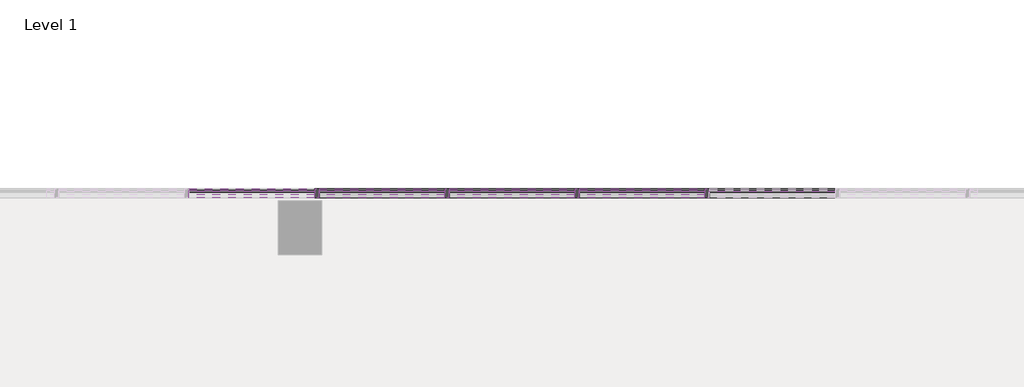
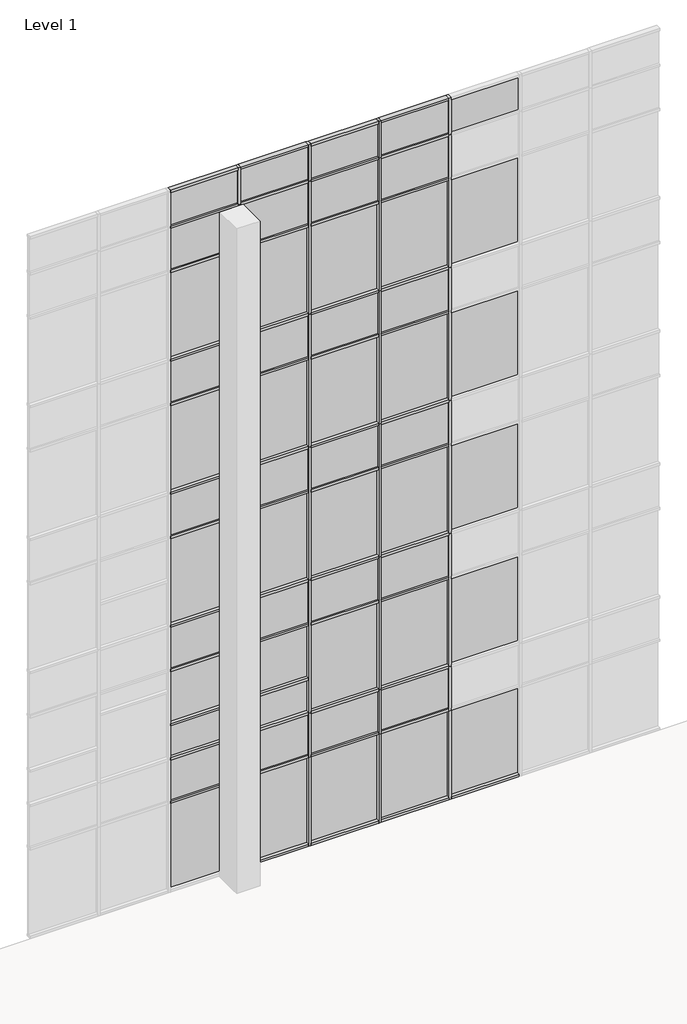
# One storey, part 12 of 23: 78 members, 52 plates.
"""IFC4 building model written with IfcOpenShell, lengths in millimetres."""

from ifc_helpers import new_model, si_unit, origin, place, context, project, spatial, transform, mapped, element, save
from components import member_2b49869a, member_f92b8aa2, member_810865a4, member_f0fea5a5, member_6d5c3e5e, member_9764dd38, system_panel_glazed_14c75400, system_panel_glazed_7d142148, system_panel_glazed_725bf07f, system_panel_solid_5dfe6f83, system_panel_solid_e25e2004, system_panel_solid_b7551183

model = new_model("IFC4")

# Units and contexts
model_context = context("Model", 3, world=origin())
ifc_project = project(units=[si_unit("LENGTHUNIT", "METRE", prefix="MILLI")], contexts=[model_context])

# Site, building, storey
site = spatial("IfcSite", under=ifc_project)
building = spatial("IfcBuilding", under=site)
storey = spatial("IfcBuildingStorey", under=building, Name="Level 1", Elevation=0.0)

# Members
placement = place(None, origin())
member_shape = member_2b49869a(model_context)
element("IfcMember", 1, ObjectType="Rectangular Mullion : 2.5\" x 5\" rectangular", at=placement, inside=storey, context=model_context, shape_type="MappedRepresentation", body=[
    mapped(member_shape, transform((-50775.4623649, 10017.7896508, 2438.4), x_axis=(1.0, 0.0, 0.0), y_axis=(0.0, -1.0, 0.0), z_axis=(0.0, 0.0, -1.0))),
])
element("IfcMember", 2, ObjectType="Rectangular Mullion : 2.5\" x 5\" rectangular", at=placement, inside=storey, context=model_context, shape_type="MappedRepresentation", body=[
    mapped(member_shape, transform((-52604.2623649, 10017.7896508, 2438.4), x_axis=(1.0, 0.0, 0.0), y_axis=(0.0, -1.0, 0.0), z_axis=(0.0, 0.0, -1.0))),
])
element("IfcMember", 3, ObjectType="Rectangular Mullion : 2.5\" x 5\" rectangular", at=placement, inside=storey, context=model_context, shape_type="MappedRepresentation", body=[
    mapped(member_shape, transform((-54433.0623649, 10017.7896508, 2438.4), x_axis=(1.0, 0.0, 0.0), y_axis=(0.0, -1.0, 0.0), z_axis=(0.0, 0.0, -1.0))),
])
element("IfcMember", 4, ObjectType="Rectangular Mullion : 2.5\" x 5\" rectangular", at=placement, inside=storey, context=model_context, shape_type="MappedRepresentation", body=[
    mapped(member_shape, transform((-56261.8623649, 10017.7896508, 2438.4), x_axis=(1.0, 0.0, 0.0), y_axis=(0.0, -1.0, 0.0), z_axis=(0.0, 0.0, -1.0))),
])
member_2_shape = member_f92b8aa2(model_context)
element("IfcMember", 5, ObjectType="Rectangular Mullion : 2.5\" x 5\" rectangular", at=placement, inside=storey, context=model_context, shape_type="MappedRepresentation", body=[
    mapped(member_2_shape, transform((-50775.4623649, 10017.7896508, 18288.0), x_axis=(1.0, 0.0, 0.0), y_axis=(0.0, -1.0, 0.0), z_axis=(0.0, 0.0, -1.0))),
])
element("IfcMember", 6, ObjectType="Rectangular Mullion : 2.5\" x 5\" rectangular", at=placement, inside=storey, context=model_context, shape_type="MappedRepresentation", body=[
    mapped(member_2_shape, transform((-52604.2623649, 10017.7896508, 18288.0), x_axis=(1.0, 0.0, 0.0), y_axis=(0.0, -1.0, 0.0), z_axis=(0.0, 0.0, -1.0))),
])
element("IfcMember", 7, ObjectType="Rectangular Mullion : 2.5\" x 5\" rectangular", at=placement, inside=storey, context=model_context, shape_type="MappedRepresentation", body=[
    mapped(member_2_shape, transform((-54433.0623649, 10017.7896508, 18288.0), x_axis=(1.0, 0.0, 0.0), y_axis=(0.0, -1.0, 0.0), z_axis=(0.0, 0.0, -1.0))),
])
element("IfcMember", 8, ObjectType="Rectangular Mullion : 2.5\" x 5\" rectangular", at=placement, inside=storey, context=model_context, shape_type="MappedRepresentation", body=[
    mapped(member_2_shape, transform((-56261.8623649, 10017.7896508, 18288.0), x_axis=(1.0, 0.0, 0.0), y_axis=(0.0, -1.0, 0.0), z_axis=(0.0, 0.0, -1.0))),
])
member_3_shape = member_810865a4(model_context)
element("IfcMember", 9, ObjectType="Rectangular Mullion : 2.5\" x 5\" rectangular", at=placement, inside=storey, context=model_context, shape_type="MappedRepresentation", body=[
    mapped(member_3_shape, transform((-50775.4623649, 10017.7896508, 14630.4), x_axis=(1.0, 0.0, 0.0), y_axis=(0.0, -1.0, 0.0), z_axis=(0.0, 0.0, -1.0))),
])
element("IfcMember", 10, ObjectType="Rectangular Mullion : 2.5\" x 5\" rectangular", at=placement, inside=storey, context=model_context, shape_type="MappedRepresentation", body=[
    mapped(member_3_shape, transform((-50775.4623649, 10017.7896508, 10972.8), x_axis=(1.0, 0.0, 0.0), y_axis=(0.0, -1.0, 0.0), z_axis=(0.0, 0.0, -1.0))),
])
element("IfcMember", 11, ObjectType="Rectangular Mullion : 2.5\" x 5\" rectangular", at=placement, inside=storey, context=model_context, shape_type="MappedRepresentation", body=[
    mapped(member_3_shape, transform((-50775.4623649, 10017.7896508, 7315.2), x_axis=(1.0, 0.0, 0.0), y_axis=(0.0, -1.0, 0.0), z_axis=(0.0, 0.0, -1.0))),
])
element("IfcMember", 12, ObjectType="Rectangular Mullion : 2.5\" x 5\" rectangular", at=placement, inside=storey, context=model_context, shape_type="MappedRepresentation", body=[
    mapped(member_3_shape, transform((-50775.4623649, 10017.7896508, 3657.6), x_axis=(1.0, 0.0, 0.0), y_axis=(0.0, -1.0, 0.0), z_axis=(0.0, 0.0, -1.0))),
])
element("IfcMember", 13, ObjectType="Rectangular Mullion : 2.5\" x 5\" rectangular", at=placement, inside=storey, context=model_context, shape_type="MappedRepresentation", body=[
    mapped(member_3_shape, transform((-52604.2623649, 10017.7896508, 14630.4), x_axis=(1.0, 0.0, 0.0), y_axis=(0.0, -1.0, 0.0), z_axis=(0.0, 0.0, -1.0))),
])
element("IfcMember", 14, ObjectType="Rectangular Mullion : 2.5\" x 5\" rectangular", at=placement, inside=storey, context=model_context, shape_type="MappedRepresentation", body=[
    mapped(member_3_shape, transform((-52604.2623649, 10017.7896508, 10972.8), x_axis=(1.0, 0.0, 0.0), y_axis=(0.0, -1.0, 0.0), z_axis=(0.0, 0.0, -1.0))),
])
element("IfcMember", 15, ObjectType="Rectangular Mullion : 2.5\" x 5\" rectangular", at=placement, inside=storey, context=model_context, shape_type="MappedRepresentation", body=[
    mapped(member_3_shape, transform((-52604.2623649, 10017.7896508, 7315.2), x_axis=(1.0, 0.0, 0.0), y_axis=(0.0, -1.0, 0.0), z_axis=(0.0, 0.0, -1.0))),
])
element("IfcMember", 16, ObjectType="Rectangular Mullion : 2.5\" x 5\" rectangular", at=placement, inside=storey, context=model_context, shape_type="MappedRepresentation", body=[
    mapped(member_3_shape, transform((-52604.2623649, 10017.7896508, 3657.6), x_axis=(1.0, 0.0, 0.0), y_axis=(0.0, -1.0, 0.0), z_axis=(0.0, 0.0, -1.0))),
])
element("IfcMember", 17, ObjectType="Rectangular Mullion : 2.5\" x 5\" rectangular", at=placement, inside=storey, context=model_context, shape_type="MappedRepresentation", body=[
    mapped(member_3_shape, transform((-54433.0623649, 10017.7896508, 14630.4), x_axis=(1.0, 0.0, 0.0), y_axis=(0.0, -1.0, 0.0), z_axis=(0.0, 0.0, -1.0))),
])
element("IfcMember", 18, ObjectType="Rectangular Mullion : 2.5\" x 5\" rectangular", at=placement, inside=storey, context=model_context, shape_type="MappedRepresentation", body=[
    mapped(member_3_shape, transform((-54433.0623649, 10017.7896508, 10972.8), x_axis=(1.0, 0.0, 0.0), y_axis=(0.0, -1.0, 0.0), z_axis=(0.0, 0.0, -1.0))),
])
element("IfcMember", 19, ObjectType="Rectangular Mullion : 2.5\" x 5\" rectangular", at=placement, inside=storey, context=model_context, shape_type="MappedRepresentation", body=[
    mapped(member_3_shape, transform((-54433.0623649, 10017.7896508, 7315.2), x_axis=(1.0, 0.0, 0.0), y_axis=(0.0, -1.0, 0.0), z_axis=(0.0, 0.0, -1.0))),
])
element("IfcMember", 20, ObjectType="Rectangular Mullion : 2.5\" x 5\" rectangular", at=placement, inside=storey, context=model_context, shape_type="MappedRepresentation", body=[
    mapped(member_3_shape, transform((-54433.0623649, 10017.7896508, 3657.6), x_axis=(1.0, 0.0, 0.0), y_axis=(0.0, -1.0, 0.0), z_axis=(0.0, 0.0, -1.0))),
])
element("IfcMember", 21, ObjectType="Rectangular Mullion : 2.5\" x 5\" rectangular", at=placement, inside=storey, context=model_context, shape_type="MappedRepresentation", body=[
    mapped(member_3_shape, transform((-56261.8623649, 10017.7896508, 14630.4), x_axis=(1.0, 0.0, 0.0), y_axis=(0.0, -1.0, 0.0), z_axis=(0.0, 0.0, -1.0))),
])
element("IfcMember", 22, ObjectType="Rectangular Mullion : 2.5\" x 5\" rectangular", at=placement, inside=storey, context=model_context, shape_type="MappedRepresentation", body=[
    mapped(member_3_shape, transform((-56261.8623649, 10017.7896508, 10972.8), x_axis=(1.0, 0.0, 0.0), y_axis=(0.0, -1.0, 0.0), z_axis=(0.0, 0.0, -1.0))),
])
element("IfcMember", 23, ObjectType="Rectangular Mullion : 2.5\" x 5\" rectangular", at=placement, inside=storey, context=model_context, shape_type="MappedRepresentation", body=[
    mapped(member_3_shape, transform((-56261.8623649, 10017.7896508, 7315.2), x_axis=(1.0, 0.0, 0.0), y_axis=(0.0, -1.0, 0.0), z_axis=(0.0, 0.0, -1.0))),
])
element("IfcMember", 24, ObjectType="Rectangular Mullion : 2.5\" x 5\" rectangular", at=placement, inside=storey, context=model_context, shape_type="MappedRepresentation", body=[
    mapped(member_3_shape, transform((-56261.8623649, 10017.7896508, 3657.6), x_axis=(1.0, 0.0, 0.0), y_axis=(0.0, -1.0, 0.0), z_axis=(0.0, 0.0, -1.0))),
])
member_4_shape = member_f0fea5a5(model_context)
element("IfcMember", 25, ObjectType="Rectangular Mullion : 2.5\" x 5\" rectangular", at=placement, inside=storey, context=model_context, shape_type="MappedRepresentation", body=[
    mapped(member_4_shape, transform((-50775.4623649, 10017.7896508, 0.0), x_axis=(1.0, 0.0, 0.0), y_axis=(0.0, -1.0, 0.0), z_axis=(0.0, 0.0, -1.0))),
])
element("IfcMember", 26, ObjectType="Rectangular Mullion : 2.5\" x 5\" rectangular", at=placement, inside=storey, context=model_context, shape_type="MappedRepresentation", body=[
    mapped(member_4_shape, transform((-56261.8623649, 10017.7896508, 0.0), x_axis=(1.0, 0.0, 0.0), y_axis=(0.0, -1.0, 0.0), z_axis=(0.0, 0.0, -1.0))),
])
element("IfcMember", 27, ObjectType="Rectangular Mullion : 2.5\" x 5\" rectangular", at=placement, inside=storey, context=model_context, shape_type="MappedRepresentation", body=[
    mapped(member_4_shape, transform((-52604.2623649, 10017.7896508, 0.0), x_axis=(1.0, 0.0, 0.0), y_axis=(0.0, -1.0, 0.0), z_axis=(0.0, 0.0, -1.0))),
])
element("IfcMember", 28, ObjectType="Rectangular Mullion : 2.5\" x 5\" rectangular", at=placement, inside=storey, context=model_context, shape_type="MappedRepresentation", body=[
    mapped(member_4_shape, transform((-54433.0623649, 10017.7896508, 0.0), x_axis=(1.0, 0.0, 0.0), y_axis=(0.0, -1.0, 0.0), z_axis=(0.0, 0.0, -1.0))),
])
member_5_shape = member_6d5c3e5e(model_context)
element("IfcMember", 29, ObjectType="Rectangular Mullion : 2.5\" x 5\" rectangular", at=placement, inside=storey, context=model_context, shape_type="MappedRepresentation", body=[
    mapped(member_5_shape, transform((-56293.6123649, 10017.7896508, 19304.0), x_axis=(0.0, 0.0, 1.0), y_axis=(0.0, -1.0, 0.0), z_axis=(1.0, 0.0, 0.0))),
])
element("IfcMember", 30, ObjectType="Rectangular Mullion : 2.5\" x 5\" rectangular", at=placement, inside=storey, context=model_context, shape_type="MappedRepresentation", body=[
    mapped(member_5_shape, transform((-50807.2123649, 10017.7896508, 19304.0), x_axis=(0.0, 0.0, 1.0), y_axis=(0.0, -1.0, 0.0), z_axis=(1.0, 0.0, 0.0))),
])
element("IfcMember", 31, ObjectType="Rectangular Mullion : 2.5\" x 5\" rectangular", at=placement, inside=storey, context=model_context, shape_type="MappedRepresentation", body=[
    mapped(member_5_shape, transform((-52636.0123649, 10017.7896508, 19304.0), x_axis=(0.0, 0.0, 1.0), y_axis=(0.0, -1.0, 0.0), z_axis=(1.0, 0.0, 0.0))),
])
element("IfcMember", 32, ObjectType="Rectangular Mullion : 2.5\" x 5\" rectangular", at=placement, inside=storey, context=model_context, shape_type="MappedRepresentation", body=[
    mapped(member_5_shape, transform((-54464.8123649, 10017.7896508, 19304.0), x_axis=(0.0, 0.0, 1.0), y_axis=(0.0, -1.0, 0.0), z_axis=(1.0, 0.0, 0.0))),
])
member_6_shape = member_9764dd38(model_context)
element("IfcMember", 33, ObjectType="Rectangular Mullion : 2.5\" x 5\" rectangular", at=placement, inside=storey, context=model_context, shape_type="MappedRepresentation", body=[
    mapped(member_6_shape, transform((-50807.2123649, 10017.7896508, 17068.8), x_axis=(0.0, 0.0, 1.0), y_axis=(0.0, -1.0, 0.0), z_axis=(1.0, 0.0, 0.0))),
])
element("IfcMember", 34, ObjectType="Rectangular Mullion : 2.5\" x 5\" rectangular", at=placement, inside=storey, context=model_context, shape_type="MappedRepresentation", body=[
    mapped(member_6_shape, transform((-52636.0123649, 10017.7896508, 17068.8), x_axis=(0.0, 0.0, 1.0), y_axis=(0.0, -1.0, 0.0), z_axis=(1.0, 0.0, 0.0))),
])
element("IfcMember", 35, ObjectType="Rectangular Mullion : 2.5\" x 5\" rectangular", at=placement, inside=storey, context=model_context, shape_type="MappedRepresentation", body=[
    mapped(member_6_shape, transform((-54464.8123649, 10017.7896508, 17068.8), x_axis=(0.0, 0.0, 1.0), y_axis=(0.0, -1.0, 0.0), z_axis=(1.0, 0.0, 0.0))),
])
element("IfcMember", 36, ObjectType="Rectangular Mullion : 2.5\" x 5\" rectangular", at=placement, inside=storey, context=model_context, shape_type="MappedRepresentation", body=[
    mapped(member_6_shape, transform((-56293.6123649, 10017.7896508, 17068.8), x_axis=(0.0, 0.0, 1.0), y_axis=(0.0, -1.0, 0.0), z_axis=(1.0, 0.0, 0.0))),
])
element("IfcMember", 37, ObjectType="Rectangular Mullion : 2.5\" x 5\" rectangular", at=placement, inside=storey, context=model_context, shape_type="MappedRepresentation", body=[
    mapped(member_6_shape, transform((-50807.2123649, 10017.7896508, 13411.2), x_axis=(0.0, 0.0, 1.0), y_axis=(0.0, -1.0, 0.0), z_axis=(1.0, 0.0, 0.0))),
])
element("IfcMember", 38, ObjectType="Rectangular Mullion : 2.5\" x 5\" rectangular", at=placement, inside=storey, context=model_context, shape_type="MappedRepresentation", body=[
    mapped(member_6_shape, transform((-52636.0123649, 10017.7896508, 13411.2), x_axis=(0.0, 0.0, 1.0), y_axis=(0.0, -1.0, 0.0), z_axis=(1.0, 0.0, 0.0))),
])
element("IfcMember", 39, ObjectType="Rectangular Mullion : 2.5\" x 5\" rectangular", at=placement, inside=storey, context=model_context, shape_type="MappedRepresentation", body=[
    mapped(member_6_shape, transform((-54464.8123649, 10017.7896508, 13411.2), x_axis=(0.0, 0.0, 1.0), y_axis=(0.0, -1.0, 0.0), z_axis=(1.0, 0.0, 0.0))),
])
element("IfcMember", 40, ObjectType="Rectangular Mullion : 2.5\" x 5\" rectangular", at=placement, inside=storey, context=model_context, shape_type="MappedRepresentation", body=[
    mapped(member_6_shape, transform((-56293.6123649, 10017.7896508, 13411.2), x_axis=(0.0, 0.0, 1.0), y_axis=(0.0, -1.0, 0.0), z_axis=(1.0, 0.0, 0.0))),
])
element("IfcMember", 41, ObjectType="Rectangular Mullion : 2.5\" x 5\" rectangular", at=placement, inside=storey, context=model_context, shape_type="MappedRepresentation", body=[
    mapped(member_6_shape, transform((-50807.2123649, 10017.7896508, 9753.6), x_axis=(0.0, 0.0, 1.0), y_axis=(0.0, -1.0, 0.0), z_axis=(1.0, 0.0, 0.0))),
])
element("IfcMember", 42, ObjectType="Rectangular Mullion : 2.5\" x 5\" rectangular", at=placement, inside=storey, context=model_context, shape_type="MappedRepresentation", body=[
    mapped(member_6_shape, transform((-52636.0123649, 10017.7896508, 9753.6), x_axis=(0.0, 0.0, 1.0), y_axis=(0.0, -1.0, 0.0), z_axis=(1.0, 0.0, 0.0))),
])
element("IfcMember", 43, ObjectType="Rectangular Mullion : 2.5\" x 5\" rectangular", at=placement, inside=storey, context=model_context, shape_type="MappedRepresentation", body=[
    mapped(member_6_shape, transform((-54464.8123649, 10017.7896508, 9753.6), x_axis=(0.0, 0.0, 1.0), y_axis=(0.0, -1.0, 0.0), z_axis=(1.0, 0.0, 0.0))),
])
element("IfcMember", 44, ObjectType="Rectangular Mullion : 2.5\" x 5\" rectangular", at=placement, inside=storey, context=model_context, shape_type="MappedRepresentation", body=[
    mapped(member_6_shape, transform((-56293.6123649, 10017.7896508, 9753.6), x_axis=(0.0, 0.0, 1.0), y_axis=(0.0, -1.0, 0.0), z_axis=(1.0, 0.0, 0.0))),
])
element("IfcMember", 45, ObjectType="Rectangular Mullion : 2.5\" x 5\" rectangular", at=placement, inside=storey, context=model_context, shape_type="MappedRepresentation", body=[
    mapped(member_6_shape, transform((-50807.2123649, 10017.7896508, 6096.0), x_axis=(0.0, 0.0, 1.0), y_axis=(0.0, -1.0, 0.0), z_axis=(1.0, 0.0, 0.0))),
])
element("IfcMember", 46, ObjectType="Rectangular Mullion : 2.5\" x 5\" rectangular", at=placement, inside=storey, context=model_context, shape_type="MappedRepresentation", body=[
    mapped(member_6_shape, transform((-52636.0123649, 10017.7896508, 6096.0), x_axis=(0.0, 0.0, 1.0), y_axis=(0.0, -1.0, 0.0), z_axis=(1.0, 0.0, 0.0))),
])
element("IfcMember", 47, ObjectType="Rectangular Mullion : 2.5\" x 5\" rectangular", at=placement, inside=storey, context=model_context, shape_type="MappedRepresentation", body=[
    mapped(member_6_shape, transform((-54464.8123649, 10017.7896508, 6096.0), x_axis=(0.0, 0.0, 1.0), y_axis=(0.0, -1.0, 0.0), z_axis=(1.0, 0.0, 0.0))),
])
element("IfcMember", 48, ObjectType="Rectangular Mullion : 2.5\" x 5\" rectangular", at=placement, inside=storey, context=model_context, shape_type="MappedRepresentation", body=[
    mapped(member_6_shape, transform((-56293.6123649, 10017.7896508, 6096.0), x_axis=(0.0, 0.0, 1.0), y_axis=(0.0, -1.0, 0.0), z_axis=(1.0, 0.0, 0.0))),
])
element("IfcMember", 49, ObjectType="Rectangular Mullion : 2.5\" x 5\" rectangular", at=placement, inside=storey, context=model_context, shape_type="MappedRepresentation", body=[
    mapped(member_6_shape, transform((-50807.2123649, 10017.7896508, 2470.15), x_axis=(0.0, 0.0, 1.0), y_axis=(0.0, -1.0, 0.0), z_axis=(1.0, 0.0, 0.0))),
])
element("IfcMember", 50, ObjectType="Rectangular Mullion : 2.5\" x 5\" rectangular", at=placement, inside=storey, context=model_context, shape_type="MappedRepresentation", body=[
    mapped(member_6_shape, transform((-52636.0123649, 10017.7896508, 2470.15), x_axis=(0.0, 0.0, 1.0), y_axis=(0.0, -1.0, 0.0), z_axis=(1.0, 0.0, 0.0))),
])
element("IfcMember", 51, ObjectType="Rectangular Mullion : 2.5\" x 5\" rectangular", at=placement, inside=storey, context=model_context, shape_type="MappedRepresentation", body=[
    mapped(member_6_shape, transform((-54464.8123649, 10017.7896508, 2470.15), x_axis=(0.0, 0.0, 1.0), y_axis=(0.0, -1.0, 0.0), z_axis=(1.0, 0.0, 0.0))),
])
element("IfcMember", 52, ObjectType="Rectangular Mullion : 2.5\" x 5\" rectangular", at=placement, inside=storey, context=model_context, shape_type="MappedRepresentation", body=[
    mapped(member_6_shape, transform((-56293.6123649, 10017.7896508, 2470.15), x_axis=(0.0, 0.0, 1.0), y_axis=(0.0, -1.0, 0.0), z_axis=(1.0, 0.0, 0.0))),
])
element("IfcMember", 53, ObjectType="Rectangular Mullion : 2.5\" x 5\" rectangular", at=placement, inside=storey, context=model_context, shape_type="MappedRepresentation", body=[
    mapped(member_6_shape, transform((-56293.6123649, 10017.7896508, 4603.75), x_axis=(0.0, 0.0, 1.0), y_axis=(0.0, -1.0, 0.0), z_axis=(1.0, 0.0, 0.0))),
])
element("IfcMember", 54, ObjectType="Rectangular Mullion : 2.5\" x 5\" rectangular", at=placement, inside=storey, context=model_context, shape_type="MappedRepresentation", body=[
    mapped(member_6_shape, transform((-54464.8123649, 10017.7896508, 4603.75), x_axis=(0.0, 0.0, 1.0), y_axis=(0.0, -1.0, 0.0), z_axis=(1.0, 0.0, 0.0))),
])
element("IfcMember", 55, ObjectType="Rectangular Mullion : 2.5\" x 5\" rectangular", at=placement, inside=storey, context=model_context, shape_type="MappedRepresentation", body=[
    mapped(member_5_shape, transform((-50743.7123649, 10017.7896508, 0.0), x_axis=(0.0, 0.0, -1.0), y_axis=(0.0, -1.0, 0.0), z_axis=(-1.0, 0.0, 0.0))),
])
element("IfcMember", 56, ObjectType="Rectangular Mullion : 2.5\" x 5\" rectangular", at=placement, inside=storey, context=model_context, shape_type="MappedRepresentation", body=[
    mapped(member_5_shape, transform((-52572.5123649, 10017.7896508, 0.0), x_axis=(0.0, 0.0, -1.0), y_axis=(0.0, -1.0, 0.0), z_axis=(-1.0, 0.0, 0.0))),
])
element("IfcMember", 57, ObjectType="Rectangular Mullion : 2.5\" x 5\" rectangular", at=placement, inside=storey, context=model_context, shape_type="MappedRepresentation", body=[
    mapped(member_5_shape, transform((-54401.3123649, 10017.7896508, 0.0), x_axis=(0.0, 0.0, -1.0), y_axis=(0.0, -1.0, 0.0), z_axis=(-1.0, 0.0, 0.0))),
])
element("IfcMember", 58, ObjectType="Rectangular Mullion : 2.5\" x 5\" rectangular", at=placement, inside=storey, context=model_context, shape_type="MappedRepresentation", body=[
    mapped(member_5_shape, transform((-56230.1123649, 10017.7896508, 0.0), x_axis=(0.0, 0.0, -1.0), y_axis=(0.0, -1.0, 0.0), z_axis=(-1.0, 0.0, 0.0))),
])
element("IfcMember", 59, ObjectType="Rectangular Mullion : 2.5\" x 5\" rectangular", at=placement, inside=storey, context=model_context, shape_type="MappedRepresentation", body=[
    mapped(member_6_shape, transform((-50807.2123649, 10017.7896508, 10972.8), x_axis=(0.0, 0.0, 1.0), y_axis=(0.0, -1.0, 0.0), z_axis=(1.0, 0.0, 0.0))),
])
element("IfcMember", 60, ObjectType="Rectangular Mullion : 2.5\" x 5\" rectangular", at=placement, inside=storey, context=model_context, shape_type="MappedRepresentation", body=[
    mapped(member_6_shape, transform((-52636.0123649, 10017.7896508, 10972.8), x_axis=(0.0, 0.0, 1.0), y_axis=(0.0, -1.0, 0.0), z_axis=(1.0, 0.0, 0.0))),
])
element("IfcMember", 61, ObjectType="Rectangular Mullion : 2.5\" x 5\" rectangular", at=placement, inside=storey, context=model_context, shape_type="MappedRepresentation", body=[
    mapped(member_6_shape, transform((-54464.8123649, 10017.7896508, 10972.8), x_axis=(0.0, 0.0, 1.0), y_axis=(0.0, -1.0, 0.0), z_axis=(1.0, 0.0, 0.0))),
])
element("IfcMember", 62, ObjectType="Rectangular Mullion : 2.5\" x 5\" rectangular", at=placement, inside=storey, context=model_context, shape_type="MappedRepresentation", body=[
    mapped(member_6_shape, transform((-56293.6123649, 10017.7896508, 10972.8), x_axis=(0.0, 0.0, 1.0), y_axis=(0.0, -1.0, 0.0), z_axis=(1.0, 0.0, 0.0))),
])
element("IfcMember", 63, ObjectType="Rectangular Mullion : 2.5\" x 5\" rectangular", at=placement, inside=storey, context=model_context, shape_type="MappedRepresentation", body=[
    mapped(member_6_shape, transform((-50807.2123649, 10017.7896508, 7315.2), x_axis=(0.0, 0.0, 1.0), y_axis=(0.0, -1.0, 0.0), z_axis=(1.0, 0.0, 0.0))),
])
element("IfcMember", 64, ObjectType="Rectangular Mullion : 2.5\" x 5\" rectangular", at=placement, inside=storey, context=model_context, shape_type="MappedRepresentation", body=[
    mapped(member_6_shape, transform((-52636.0123649, 10017.7896508, 7315.2), x_axis=(0.0, 0.0, 1.0), y_axis=(0.0, -1.0, 0.0), z_axis=(1.0, 0.0, 0.0))),
])
element("IfcMember", 65, ObjectType="Rectangular Mullion : 2.5\" x 5\" rectangular", at=placement, inside=storey, context=model_context, shape_type="MappedRepresentation", body=[
    mapped(member_6_shape, transform((-54464.8123649, 10017.7896508, 7315.2), x_axis=(0.0, 0.0, 1.0), y_axis=(0.0, -1.0, 0.0), z_axis=(1.0, 0.0, 0.0))),
])
element("IfcMember", 66, ObjectType="Rectangular Mullion : 2.5\" x 5\" rectangular", at=placement, inside=storey, context=model_context, shape_type="MappedRepresentation", body=[
    mapped(member_6_shape, transform((-56293.6123649, 10017.7896508, 7315.2), x_axis=(0.0, 0.0, 1.0), y_axis=(0.0, -1.0, 0.0), z_axis=(1.0, 0.0, 0.0))),
])
element("IfcMember", 67, ObjectType="Rectangular Mullion : 2.5\" x 5\" rectangular", at=placement, inside=storey, context=model_context, shape_type="MappedRepresentation", body=[
    mapped(member_6_shape, transform((-50807.2123649, 10017.7896508, 18288.0), x_axis=(0.0, 0.0, 1.0), y_axis=(0.0, -1.0, 0.0), z_axis=(1.0, 0.0, 0.0))),
])
element("IfcMember", 68, ObjectType="Rectangular Mullion : 2.5\" x 5\" rectangular", at=placement, inside=storey, context=model_context, shape_type="MappedRepresentation", body=[
    mapped(member_6_shape, transform((-52636.0123649, 10017.7896508, 18288.0), x_axis=(0.0, 0.0, 1.0), y_axis=(0.0, -1.0, 0.0), z_axis=(1.0, 0.0, 0.0))),
])
element("IfcMember", 69, ObjectType="Rectangular Mullion : 2.5\" x 5\" rectangular", at=placement, inside=storey, context=model_context, shape_type="MappedRepresentation", body=[
    mapped(member_6_shape, transform((-54464.8123649, 10017.7896508, 18288.0), x_axis=(0.0, 0.0, 1.0), y_axis=(0.0, -1.0, 0.0), z_axis=(1.0, 0.0, 0.0))),
])
element("IfcMember", 70, ObjectType="Rectangular Mullion : 2.5\" x 5\" rectangular", at=placement, inside=storey, context=model_context, shape_type="MappedRepresentation", body=[
    mapped(member_6_shape, transform((-56293.6123649, 10017.7896508, 18288.0), x_axis=(0.0, 0.0, 1.0), y_axis=(0.0, -1.0, 0.0), z_axis=(1.0, 0.0, 0.0))),
])
element("IfcMember", 71, ObjectType="Rectangular Mullion : 2.5\" x 5\" rectangular", at=placement, inside=storey, context=model_context, shape_type="MappedRepresentation", body=[
    mapped(member_6_shape, transform((-50807.2123649, 10017.7896508, 14630.4), x_axis=(0.0, 0.0, 1.0), y_axis=(0.0, -1.0, 0.0), z_axis=(1.0, 0.0, 0.0))),
])
element("IfcMember", 72, ObjectType="Rectangular Mullion : 2.5\" x 5\" rectangular", at=placement, inside=storey, context=model_context, shape_type="MappedRepresentation", body=[
    mapped(member_6_shape, transform((-52636.0123649, 10017.7896508, 14630.4), x_axis=(0.0, 0.0, 1.0), y_axis=(0.0, -1.0, 0.0), z_axis=(1.0, 0.0, 0.0))),
])
element("IfcMember", 73, ObjectType="Rectangular Mullion : 2.5\" x 5\" rectangular", at=placement, inside=storey, context=model_context, shape_type="MappedRepresentation", body=[
    mapped(member_6_shape, transform((-54464.8123649, 10017.7896508, 14630.4), x_axis=(0.0, 0.0, 1.0), y_axis=(0.0, -1.0, 0.0), z_axis=(1.0, 0.0, 0.0))),
])
element("IfcMember", 74, ObjectType="Rectangular Mullion : 2.5\" x 5\" rectangular", at=placement, inside=storey, context=model_context, shape_type="MappedRepresentation", body=[
    mapped(member_6_shape, transform((-56293.6123649, 10017.7896508, 14630.4), x_axis=(0.0, 0.0, 1.0), y_axis=(0.0, -1.0, 0.0), z_axis=(1.0, 0.0, 0.0))),
])
element("IfcMember", 75, ObjectType="Rectangular Mullion : 2.5\" x 5\" rectangular", at=placement, inside=storey, context=model_context, shape_type="MappedRepresentation", body=[
    mapped(member_6_shape, transform((-56293.6123649, 10017.7896508, 3657.6), x_axis=(0.0, 0.0, 1.0), y_axis=(0.0, -1.0, 0.0), z_axis=(1.0, 0.0, 0.0))),
])
element("IfcMember", 76, ObjectType="Rectangular Mullion : 2.5\" x 5\" rectangular", at=placement, inside=storey, context=model_context, shape_type="MappedRepresentation", body=[
    mapped(member_6_shape, transform((-52636.0123649, 10017.7896508, 3657.6), x_axis=(0.0, 0.0, 1.0), y_axis=(0.0, -1.0, 0.0), z_axis=(1.0, 0.0, 0.0))),
])
element("IfcMember", 77, ObjectType="Rectangular Mullion : 2.5\" x 5\" rectangular", at=placement, inside=storey, context=model_context, shape_type="MappedRepresentation", body=[
    mapped(member_6_shape, transform((-50807.2123649, 10017.7896508, 3657.6), x_axis=(0.0, 0.0, 1.0), y_axis=(0.0, -1.0, 0.0), z_axis=(1.0, 0.0, 0.0))),
])
element("IfcMember", 78, ObjectType="Rectangular Mullion : 2.5\" x 5\" rectangular", at=placement, inside=storey, context=model_context, shape_type="MappedRepresentation", body=[
    mapped(member_6_shape, transform((-54464.8123649, 10017.7896508, 3657.6), x_axis=(0.0, 0.0, 1.0), y_axis=(0.0, -1.0, 0.0), z_axis=(1.0, 0.0, 0.0))),
])

# Plates
system_panel_glazed_shape = system_panel_glazed_14c75400(model_context)
element("IfcPlate", 79, ObjectType="System Panel : Glazed", at=placement, inside=storey, context=model_context, shape_type="MappedRepresentation", body=[
    mapped(system_panel_glazed_shape, transform((-49861.0623649, 10017.7896508, 14662.15), x_axis=(1.0, 0.0, 0.0), y_axis=(0.0, 1.0, 0.0), z_axis=(0.0, 0.0, 1.0))),
])
element("IfcPlate", 80, ObjectType="System Panel : Glazed", at=placement, inside=storey, context=model_context, shape_type="MappedRepresentation", body=[
    mapped(system_panel_glazed_shape, transform((-51689.8623649, 10017.7896508, 14662.15), x_axis=(1.0, 0.0, 0.0), y_axis=(0.0, 1.0, 0.0), z_axis=(0.0, 0.0, 1.0))),
])
element("IfcPlate", 81, ObjectType="System Panel : Glazed", at=placement, inside=storey, context=model_context, shape_type="MappedRepresentation", body=[
    mapped(system_panel_glazed_shape, transform((-53518.6623649, 10017.7896508, 14662.15), x_axis=(1.0, 0.0, 0.0), y_axis=(0.0, 1.0, 0.0), z_axis=(0.0, 0.0, 1.0))),
])
element("IfcPlate", 82, ObjectType="System Panel : Glazed", at=placement, inside=storey, context=model_context, shape_type="MappedRepresentation", body=[
    mapped(system_panel_glazed_shape, transform((-55347.4623649, 10017.7896508, 14662.15), x_axis=(1.0, 0.0, 0.0), y_axis=(0.0, 1.0, 0.0), z_axis=(0.0, 0.0, 1.0))),
])
element("IfcPlate", 83, ObjectType="System Panel : Glazed", at=placement, inside=storey, context=model_context, shape_type="MappedRepresentation", body=[
    mapped(system_panel_glazed_shape, transform((-57176.2623649, 10017.7896508, 14662.15), x_axis=(1.0, 0.0, 0.0), y_axis=(0.0, 1.0, 0.0), z_axis=(0.0, 0.0, 1.0))),
])
element("IfcPlate", 84, ObjectType="System Panel : Glazed", at=placement, inside=storey, context=model_context, shape_type="MappedRepresentation", body=[
    mapped(system_panel_glazed_shape, transform((-49861.0623649, 10017.7896508, 11004.55), x_axis=(1.0, 0.0, 0.0), y_axis=(0.0, 1.0, 0.0), z_axis=(0.0, 0.0, 1.0))),
])
element("IfcPlate", 85, ObjectType="System Panel : Glazed", at=placement, inside=storey, context=model_context, shape_type="MappedRepresentation", body=[
    mapped(system_panel_glazed_shape, transform((-51689.8623649, 10017.7896508, 11004.55), x_axis=(1.0, 0.0, 0.0), y_axis=(0.0, 1.0, 0.0), z_axis=(0.0, 0.0, 1.0))),
])
element("IfcPlate", 86, ObjectType="System Panel : Glazed", at=placement, inside=storey, context=model_context, shape_type="MappedRepresentation", body=[
    mapped(system_panel_glazed_shape, transform((-53518.6623649, 10017.7896508, 11004.55), x_axis=(1.0, 0.0, 0.0), y_axis=(0.0, 1.0, 0.0), z_axis=(0.0, 0.0, 1.0))),
])
element("IfcPlate", 87, ObjectType="System Panel : Glazed", at=placement, inside=storey, context=model_context, shape_type="MappedRepresentation", body=[
    mapped(system_panel_glazed_shape, transform((-55347.4623649, 10017.7896508, 11004.55), x_axis=(1.0, 0.0, 0.0), y_axis=(0.0, 1.0, 0.0), z_axis=(0.0, 0.0, 1.0))),
])
element("IfcPlate", 88, ObjectType="System Panel : Glazed", at=placement, inside=storey, context=model_context, shape_type="MappedRepresentation", body=[
    mapped(system_panel_glazed_shape, transform((-57176.2623649, 10017.7896508, 11004.55), x_axis=(1.0, 0.0, 0.0), y_axis=(0.0, 1.0, 0.0), z_axis=(0.0, 0.0, 1.0))),
])
element("IfcPlate", 89, ObjectType="System Panel : Glazed", at=placement, inside=storey, context=model_context, shape_type="MappedRepresentation", body=[
    mapped(system_panel_glazed_shape, transform((-49861.0623649, 10017.7896508, 7346.95), x_axis=(1.0, 0.0, 0.0), y_axis=(0.0, 1.0, 0.0), z_axis=(0.0, 0.0, 1.0))),
])
element("IfcPlate", 90, ObjectType="System Panel : Glazed", at=placement, inside=storey, context=model_context, shape_type="MappedRepresentation", body=[
    mapped(system_panel_glazed_shape, transform((-51689.8623649, 10017.7896508, 7346.95), x_axis=(1.0, 0.0, 0.0), y_axis=(0.0, 1.0, 0.0), z_axis=(0.0, 0.0, 1.0))),
])
element("IfcPlate", 91, ObjectType="System Panel : Glazed", at=placement, inside=storey, context=model_context, shape_type="MappedRepresentation", body=[
    mapped(system_panel_glazed_shape, transform((-53518.6623649, 10017.7896508, 7346.95), x_axis=(1.0, 0.0, 0.0), y_axis=(0.0, 1.0, 0.0), z_axis=(0.0, 0.0, 1.0))),
])
element("IfcPlate", 92, ObjectType="System Panel : Glazed", at=placement, inside=storey, context=model_context, shape_type="MappedRepresentation", body=[
    mapped(system_panel_glazed_shape, transform((-55347.4623649, 10017.7896508, 7346.95), x_axis=(1.0, 0.0, 0.0), y_axis=(0.0, 1.0, 0.0), z_axis=(0.0, 0.0, 1.0))),
])
element("IfcPlate", 93, ObjectType="System Panel : Glazed", at=placement, inside=storey, context=model_context, shape_type="MappedRepresentation", body=[
    mapped(system_panel_glazed_shape, transform((-57176.2623649, 10017.7896508, 7346.95), x_axis=(1.0, 0.0, 0.0), y_axis=(0.0, 1.0, 0.0), z_axis=(0.0, 0.0, 1.0))),
])
element("IfcPlate", 94, ObjectType="System Panel : Glazed", at=placement, inside=storey, context=model_context, shape_type="MappedRepresentation", body=[
    mapped(system_panel_glazed_shape, transform((-49861.0623649, 10017.7896508, 3689.35), x_axis=(1.0, 0.0, 0.0), y_axis=(0.0, 1.0, 0.0), z_axis=(0.0, 0.0, 1.0))),
])
element("IfcPlate", 95, ObjectType="System Panel : Glazed", at=placement, inside=storey, context=model_context, shape_type="MappedRepresentation", body=[
    mapped(system_panel_glazed_shape, transform((-51689.8623649, 10017.7896508, 3689.35), x_axis=(1.0, 0.0, 0.0), y_axis=(0.0, 1.0, 0.0), z_axis=(0.0, 0.0, 1.0))),
])
element("IfcPlate", 96, ObjectType="System Panel : Glazed", at=placement, inside=storey, context=model_context, shape_type="MappedRepresentation", body=[
    mapped(system_panel_glazed_shape, transform((-53518.6623649, 10017.7896508, 3689.35), x_axis=(1.0, 0.0, 0.0), y_axis=(0.0, 1.0, 0.0), z_axis=(0.0, 0.0, 1.0))),
])
element("IfcPlate", 97, ObjectType="System Panel : Glazed", at=placement, inside=storey, context=model_context, shape_type="MappedRepresentation", body=[
    mapped(system_panel_glazed_shape, transform((-49861.0623649, 10017.7896508, 63.5), x_axis=(1.0, 0.0, 0.0), y_axis=(0.0, 1.0, 0.0), z_axis=(0.0, 0.0, 1.0))),
])
element("IfcPlate", 98, ObjectType="System Panel : Glazed", at=placement, inside=storey, context=model_context, shape_type="MappedRepresentation", body=[
    mapped(system_panel_glazed_shape, transform((-51689.8623649, 10017.7896508, 63.5), x_axis=(1.0, 0.0, 0.0), y_axis=(0.0, 1.0, 0.0), z_axis=(0.0, 0.0, 1.0))),
])
element("IfcPlate", 99, ObjectType="System Panel : Glazed", at=placement, inside=storey, context=model_context, shape_type="MappedRepresentation", body=[
    mapped(system_panel_glazed_shape, transform((-53518.6623649, 10017.7896508, 63.5), x_axis=(1.0, 0.0, 0.0), y_axis=(0.0, 1.0, 0.0), z_axis=(0.0, 0.0, 1.0))),
])
element("IfcPlate", 100, ObjectType="System Panel : Glazed", at=placement, inside=storey, context=model_context, shape_type="MappedRepresentation", body=[
    mapped(system_panel_glazed_shape, transform((-55347.4623649, 10017.7896508, 63.5), x_axis=(1.0, 0.0, 0.0), y_axis=(0.0, 1.0, 0.0), z_axis=(0.0, 0.0, 1.0))),
])
element("IfcPlate", 101, ObjectType="System Panel : Glazed", at=placement, inside=storey, context=model_context, shape_type="MappedRepresentation", body=[
    mapped(system_panel_glazed_shape, transform((-57176.2623649, 10017.7896508, 63.5), x_axis=(1.0, 0.0, 0.0), y_axis=(0.0, 1.0, 0.0), z_axis=(0.0, 0.0, 1.0))),
])
system_panel_glazed_2_shape = system_panel_glazed_7d142148(model_context)
element("IfcPlate", 102, ObjectType="System Panel : Glazed", at=placement, inside=storey, context=model_context, shape_type="MappedRepresentation", body=[
    mapped(system_panel_glazed_2_shape, transform((-55347.4623649, 10017.7896508, 3689.35), x_axis=(1.0, 0.0, 0.0), y_axis=(0.0, 1.0, 0.0), z_axis=(0.0, 0.0, 1.0))),
])
element("IfcPlate", 103, ObjectType="System Panel : Glazed", at=placement, inside=storey, context=model_context, shape_type="MappedRepresentation", body=[
    mapped(system_panel_glazed_2_shape, transform((-57176.2623649, 10017.7896508, 3689.35), x_axis=(1.0, 0.0, 0.0), y_axis=(0.0, 1.0, 0.0), z_axis=(0.0, 0.0, 1.0))),
])
system_panel_glazed_3_shape = system_panel_glazed_725bf07f(model_context)
element("IfcPlate", 104, ObjectType="System Panel : Glazed", at=placement, inside=storey, context=model_context, shape_type="MappedRepresentation", body=[
    mapped(system_panel_glazed_3_shape, transform((-57176.2623649, 10017.7896508, 4635.5), x_axis=(1.0, 0.0, 0.0), y_axis=(0.0, 1.0, 0.0), z_axis=(0.0, 0.0, 1.0))),
])
element("IfcPlate", 105, ObjectType="System Panel : Glazed", at=placement, inside=storey, context=model_context, shape_type="MappedRepresentation", body=[
    mapped(system_panel_glazed_3_shape, transform((-55347.4623649, 10017.7896508, 4635.5), x_axis=(1.0, 0.0, 0.0), y_axis=(0.0, 1.0, 0.0), z_axis=(0.0, 0.0, 1.0))),
])
system_panel_solid_shape = system_panel_solid_5dfe6f83(model_context)
element("IfcPlate", 106, ObjectType="System Panel : Solid", at=placement, inside=storey, context=model_context, shape_type="MappedRepresentation", body=[
    mapped(system_panel_solid_shape, transform((-57176.2623649, 10017.7896508, 18319.75), x_axis=(1.0, 0.0, 0.0), y_axis=(0.0, 1.0, 0.0), z_axis=(0.0, 0.0, 1.0))),
])
element("IfcPlate", 107, ObjectType="System Panel : Solid", at=placement, inside=storey, context=model_context, shape_type="MappedRepresentation", body=[
    mapped(system_panel_solid_shape, transform((-55347.4623649, 10017.7896508, 18319.75), x_axis=(1.0, 0.0, 0.0), y_axis=(0.0, 1.0, 0.0), z_axis=(0.0, 0.0, 1.0))),
])
element("IfcPlate", 108, ObjectType="System Panel : Solid", at=placement, inside=storey, context=model_context, shape_type="MappedRepresentation", body=[
    mapped(system_panel_solid_shape, transform((-53518.6623649, 10017.7896508, 18319.75), x_axis=(1.0, 0.0, 0.0), y_axis=(0.0, 1.0, 0.0), z_axis=(0.0, 0.0, 1.0))),
])
element("IfcPlate", 109, ObjectType="System Panel : Solid", at=placement, inside=storey, context=model_context, shape_type="MappedRepresentation", body=[
    mapped(system_panel_solid_shape, transform((-51689.8623649, 10017.7896508, 18319.75), x_axis=(1.0, 0.0, 0.0), y_axis=(0.0, 1.0, 0.0), z_axis=(0.0, 0.0, 1.0))),
])
element("IfcPlate", 110, ObjectType="System Panel : Solid", at=placement, inside=storey, context=model_context, shape_type="MappedRepresentation", body=[
    mapped(system_panel_solid_shape, transform((-49861.0623649, 10017.7896508, 18319.75), x_axis=(1.0, 0.0, 0.0), y_axis=(0.0, 1.0, 0.0), z_axis=(0.0, 0.0, 1.0))),
])
system_panel_solid_2_shape = system_panel_solid_e25e2004(model_context)
element("IfcPlate", 111, ObjectType="System Panel : Solid", at=placement, inside=storey, context=model_context, shape_type="MappedRepresentation", body=[
    mapped(system_panel_solid_2_shape, transform((-51689.8623649, 10017.7896508, 17100.55), x_axis=(1.0, 0.0, 0.0), y_axis=(0.0, 1.0, 0.0), z_axis=(0.0, 0.0, 1.0))),
])
element("IfcPlate", 112, ObjectType="System Panel : Solid", at=placement, inside=storey, context=model_context, shape_type="MappedRepresentation", body=[
    mapped(system_panel_solid_2_shape, transform((-53518.6623649, 10017.7896508, 17100.55), x_axis=(1.0, 0.0, 0.0), y_axis=(0.0, 1.0, 0.0), z_axis=(0.0, 0.0, 1.0))),
])
element("IfcPlate", 113, ObjectType="System Panel : Solid", at=placement, inside=storey, context=model_context, shape_type="MappedRepresentation", body=[
    mapped(system_panel_solid_2_shape, transform((-55347.4623649, 10017.7896508, 17100.55), x_axis=(1.0, 0.0, 0.0), y_axis=(0.0, 1.0, 0.0), z_axis=(0.0, 0.0, 1.0))),
])
element("IfcPlate", 114, ObjectType="System Panel : Solid", at=placement, inside=storey, context=model_context, shape_type="MappedRepresentation", body=[
    mapped(system_panel_solid_2_shape, transform((-57176.2623649, 10017.7896508, 17100.55), x_axis=(1.0, 0.0, 0.0), y_axis=(0.0, 1.0, 0.0), z_axis=(0.0, 0.0, 1.0))),
])
element("IfcPlate", 115, ObjectType="System Panel : Solid", at=placement, inside=storey, context=model_context, shape_type="MappedRepresentation", body=[
    mapped(system_panel_solid_2_shape, transform((-51689.8623649, 10017.7896508, 13442.95), x_axis=(1.0, 0.0, 0.0), y_axis=(0.0, 1.0, 0.0), z_axis=(0.0, 0.0, 1.0))),
])
element("IfcPlate", 116, ObjectType="System Panel : Solid", at=placement, inside=storey, context=model_context, shape_type="MappedRepresentation", body=[
    mapped(system_panel_solid_2_shape, transform((-53518.6623649, 10017.7896508, 13442.95), x_axis=(1.0, 0.0, 0.0), y_axis=(0.0, 1.0, 0.0), z_axis=(0.0, 0.0, 1.0))),
])
element("IfcPlate", 117, ObjectType="System Panel : Solid", at=placement, inside=storey, context=model_context, shape_type="MappedRepresentation", body=[
    mapped(system_panel_solid_2_shape, transform((-55347.4623649, 10017.7896508, 13442.95), x_axis=(1.0, 0.0, 0.0), y_axis=(0.0, 1.0, 0.0), z_axis=(0.0, 0.0, 1.0))),
])
element("IfcPlate", 118, ObjectType="System Panel : Solid", at=placement, inside=storey, context=model_context, shape_type="MappedRepresentation", body=[
    mapped(system_panel_solid_2_shape, transform((-57176.2623649, 10017.7896508, 13442.95), x_axis=(1.0, 0.0, 0.0), y_axis=(0.0, 1.0, 0.0), z_axis=(0.0, 0.0, 1.0))),
])
element("IfcPlate", 119, ObjectType="System Panel : Solid", at=placement, inside=storey, context=model_context, shape_type="MappedRepresentation", body=[
    mapped(system_panel_solid_2_shape, transform((-51689.8623649, 10017.7896508, 9785.35), x_axis=(1.0, 0.0, 0.0), y_axis=(0.0, 1.0, 0.0), z_axis=(0.0, 0.0, 1.0))),
])
element("IfcPlate", 120, ObjectType="System Panel : Solid", at=placement, inside=storey, context=model_context, shape_type="MappedRepresentation", body=[
    mapped(system_panel_solid_2_shape, transform((-53518.6623649, 10017.7896508, 9785.35), x_axis=(1.0, 0.0, 0.0), y_axis=(0.0, 1.0, 0.0), z_axis=(0.0, 0.0, 1.0))),
])
element("IfcPlate", 121, ObjectType="System Panel : Solid", at=placement, inside=storey, context=model_context, shape_type="MappedRepresentation", body=[
    mapped(system_panel_solid_2_shape, transform((-55347.4623649, 10017.7896508, 9785.35), x_axis=(1.0, 0.0, 0.0), y_axis=(0.0, 1.0, 0.0), z_axis=(0.0, 0.0, 1.0))),
])
element("IfcPlate", 122, ObjectType="System Panel : Solid", at=placement, inside=storey, context=model_context, shape_type="MappedRepresentation", body=[
    mapped(system_panel_solid_2_shape, transform((-57176.2623649, 10017.7896508, 9785.35), x_axis=(1.0, 0.0, 0.0), y_axis=(0.0, 1.0, 0.0), z_axis=(0.0, 0.0, 1.0))),
])
element("IfcPlate", 123, ObjectType="System Panel : Solid", at=placement, inside=storey, context=model_context, shape_type="MappedRepresentation", body=[
    mapped(system_panel_solid_2_shape, transform((-51689.8623649, 10017.7896508, 6127.75), x_axis=(1.0, 0.0, 0.0), y_axis=(0.0, 1.0, 0.0), z_axis=(0.0, 0.0, 1.0))),
])
element("IfcPlate", 124, ObjectType="System Panel : Solid", at=placement, inside=storey, context=model_context, shape_type="MappedRepresentation", body=[
    mapped(system_panel_solid_2_shape, transform((-53518.6623649, 10017.7896508, 6127.75), x_axis=(1.0, 0.0, 0.0), y_axis=(0.0, 1.0, 0.0), z_axis=(0.0, 0.0, 1.0))),
])
element("IfcPlate", 125, ObjectType="System Panel : Solid", at=placement, inside=storey, context=model_context, shape_type="MappedRepresentation", body=[
    mapped(system_panel_solid_2_shape, transform((-55347.4623649, 10017.7896508, 6127.75), x_axis=(1.0, 0.0, 0.0), y_axis=(0.0, 1.0, 0.0), z_axis=(0.0, 0.0, 1.0))),
])
element("IfcPlate", 126, ObjectType="System Panel : Solid", at=placement, inside=storey, context=model_context, shape_type="MappedRepresentation", body=[
    mapped(system_panel_solid_2_shape, transform((-57176.2623649, 10017.7896508, 6127.75), x_axis=(1.0, 0.0, 0.0), y_axis=(0.0, 1.0, 0.0), z_axis=(0.0, 0.0, 1.0))),
])
system_panel_solid_3_shape = system_panel_solid_b7551183(model_context)
element("IfcPlate", 127, ObjectType="System Panel : Solid", at=placement, inside=storey, context=model_context, shape_type="MappedRepresentation", body=[
    mapped(system_panel_solid_3_shape, transform((-51689.8623649, 10017.7896508, 2501.9), x_axis=(1.0, 0.0, 0.0), y_axis=(0.0, 1.0, 0.0), z_axis=(0.0, 0.0, 1.0))),
])
element("IfcPlate", 128, ObjectType="System Panel : Solid", at=placement, inside=storey, context=model_context, shape_type="MappedRepresentation", body=[
    mapped(system_panel_solid_3_shape, transform((-53518.6623649, 10017.7896508, 2501.9), x_axis=(1.0, 0.0, 0.0), y_axis=(0.0, 1.0, 0.0), z_axis=(0.0, 0.0, 1.0))),
])
element("IfcPlate", 129, ObjectType="System Panel : Solid", at=placement, inside=storey, context=model_context, shape_type="MappedRepresentation", body=[
    mapped(system_panel_solid_3_shape, transform((-55347.4623649, 10017.7896508, 2501.9), x_axis=(1.0, 0.0, 0.0), y_axis=(0.0, 1.0, 0.0), z_axis=(0.0, 0.0, 1.0))),
])
element("IfcPlate", 130, ObjectType="System Panel : Solid", at=placement, inside=storey, context=model_context, shape_type="MappedRepresentation", body=[
    mapped(system_panel_solid_3_shape, transform((-57176.2623649, 10017.7896508, 2501.9), x_axis=(1.0, 0.0, 0.0), y_axis=(0.0, 1.0, 0.0), z_axis=(0.0, 0.0, 1.0))),
])

save(model, "model.ifc")
